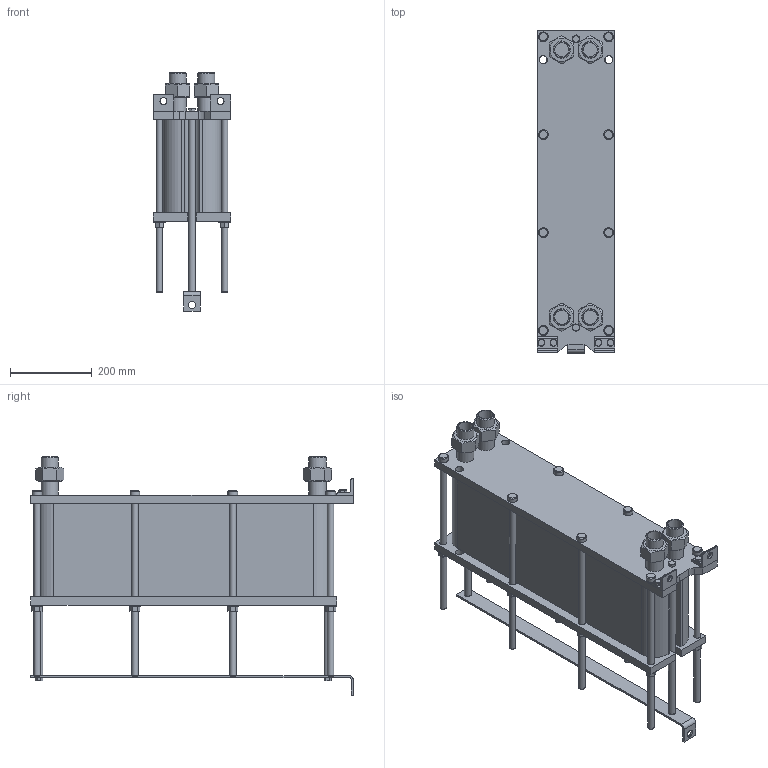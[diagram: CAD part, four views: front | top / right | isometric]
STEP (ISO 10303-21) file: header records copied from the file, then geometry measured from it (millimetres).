
FILE_DESCRIPTION(/* description */ (''),/* implementation_level */ '2;1');
FILE_NAME(/* name */ 'C:\Users\zhuro\Desktop\ENCO\TO\ЭН-008\ЭН-0,5-008-74-1.stp',/* time_stamp */ '2022-06-06T10:51:56+03:00',/* author */ ('zhuro'),/* organization */ (''),/* preprocessor_version */ 'ST-DEVELOPER v18.1',/* originating_system */ 'Autodesk Inventor 2022',/* authorisation */ '');
FILE_SCHEMA (('AUTOMOTIVE_DESIGN { 1 0 10303 214 3 1 1 }'));
Length unit declared in the file: millimetre
Products named in the file (1): ЭН-0,5-008-74-1
Bounding box: 190 x 790 x 584.2 mm (x, y, z)
Volume: 30245513 mm3; surface area: 1801595.2 mm2
Topology: 40 solids, 40 shells, 428 faces, 924 edges, 606 vertices
Faces by surface type: plane 273, cylinder 109, cone 40, torus 6
Full cylindrical faces by diameter (mm): 12 x6, 14 x2, 16 x20, 17 x8, 18 x19, 20 x5, 24 x8, 28 x8, 34.3 x8, 42.3 x8
Entity records: 15843 total; most frequent: CARTESIAN_POINT 5991, DIRECTION 1984, ORIENTED_EDGE 1848, EDGE_CURVE 924, AXIS2_PLACEMENT_3D 715, VERTEX_POINT 606, LINE 554, VECTOR 554
